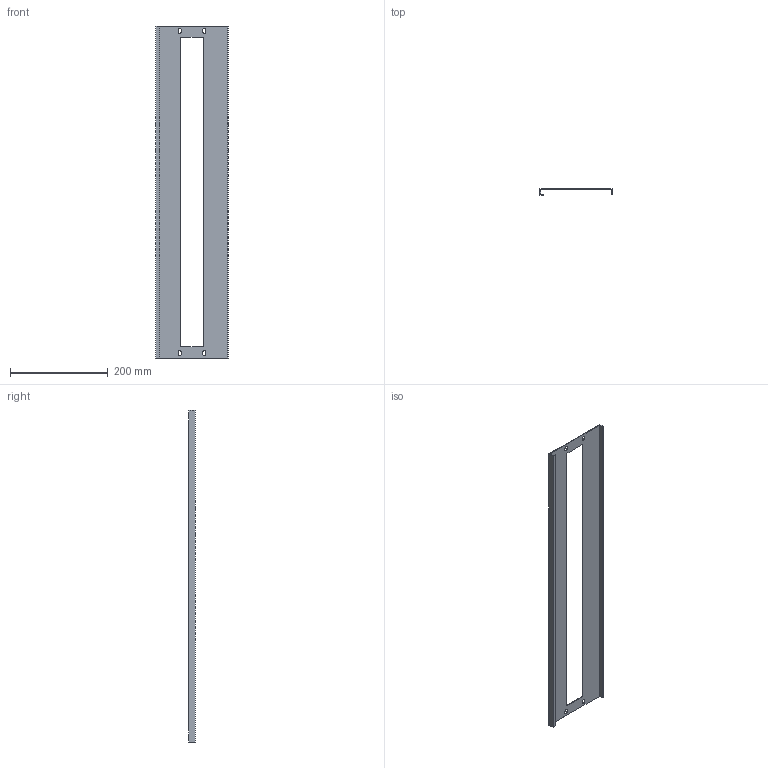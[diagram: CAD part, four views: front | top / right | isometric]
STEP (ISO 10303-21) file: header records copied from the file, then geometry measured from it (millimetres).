
FILE_DESCRIPTION (( 'STEP AP214' ), '1' );
FILE_NAME ('FO-00-PVM-015-080 Ïëàñòðîí äëÿ ìîäóëüíûõ óñòðîéñòâ 150õ800.STEP', '2025-08-26T08:03:02', ( '' ), ( '' ), 'SwSTEP 2.0', 'SolidWorks 2023', '' );
FILE_SCHEMA (( 'AUTOMOTIVE_DESIGN' ));
Length unit declared in the file: millimetre
Products named in the file (1): FO-00-PVM-015-080 Пластрон для модульных устройств 150х800
Bounding box: 148 x 12.5 x 679 mm (x, y, z)
Volume: 133728.1 mm3; surface area: 183063.6 mm2
Topology: 1 solids, 1 shells, 46 faces, 132 edges, 88 vertices
Faces by surface type: plane 34, cylinder 12
Entity records: 1543 total; most frequent: CARTESIAN_POINT 267, ORIENTED_EDGE 264, DIRECTION 250, EDGE_CURVE 132, VECTOR 108, LINE 108, VERTEX_POINT 88, AXIS2_PLACEMENT_3D 71
